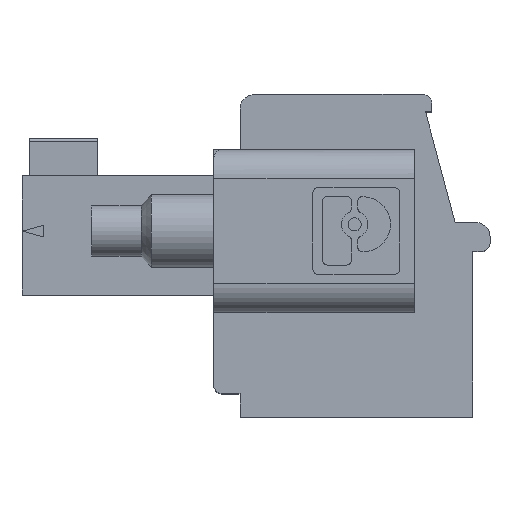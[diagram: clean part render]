
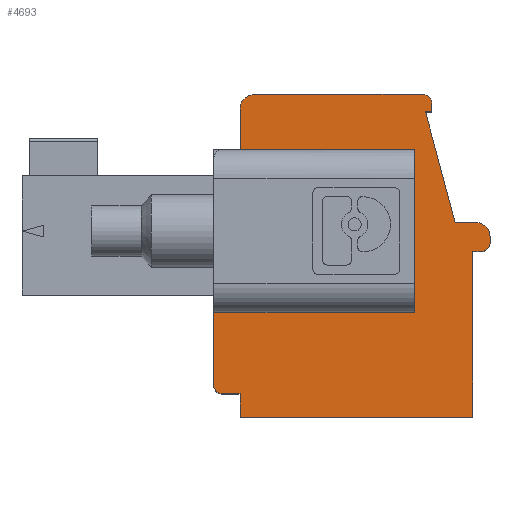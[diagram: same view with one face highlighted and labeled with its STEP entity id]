
A CAD part, top view. The second image highlights one B-rep face of the part: STEP entity #4693.
In plain terms, the highlighted planar face has unit normal (0, 0, 1).
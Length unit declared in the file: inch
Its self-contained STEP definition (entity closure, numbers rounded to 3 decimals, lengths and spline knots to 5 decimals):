
#534=DIRECTION('',(0.,1.,0.));
#535=VECTOR('',#534,0.22441);
#536=CARTESIAN_POINT('',(1.99256,1.15678,3.04744));
#537=LINE('',#536,#535);
#538=DIRECTION('',(1.,0.,0.));
#539=VECTOR('',#538,0.31496);
#540=CARTESIAN_POINT('',(1.6776,1.15678,3.04744));
#541=LINE('',#540,#539);
#542=DIRECTION('',(0.,-1.,0.));
#543=VECTOR('',#542,0.0315);
#544=CARTESIAN_POINT('',(1.6776,1.18828,3.04744));
#545=LINE('',#544,#543);
#546=DIRECTION('',(1.,0.,0.));
#547=VECTOR('',#546,0.02362);
#548=CARTESIAN_POINT('',(1.65398,1.18828,3.04744));
#549=LINE('',#548,#547);
#550=CARTESIAN_POINT('',(1.65398,1.20009,3.04744));
#551=DIRECTION('',(0.,0.,1.));
#552=DIRECTION('',(-1.,0.,0.));
#553=AXIS2_PLACEMENT_3D('',#550,#551,#552);
#555=DIRECTION('',(-1.,0.,0.));
#556=VECTOR('',#555,0.27165);
#557=CARTESIAN_POINT('',(1.91382,1.29851,3.04744));
#558=LINE('',#557,#556);
#559=DIRECTION('',(0.,-1.,0.));
#560=VECTOR('',#559,0.22047);
#561=CARTESIAN_POINT('',(1.91382,1.51898,3.04744));
#562=LINE('',#561,#560);
#563=DIRECTION('',(1.,0.,0.));
#564=VECTOR('',#563,0.23622);
#565=CARTESIAN_POINT('',(1.6776,1.51898,3.04744));
#566=LINE('',#565,#564);
#567=DIRECTION('',(0.,-1.,0.));
#568=VECTOR('',#567,0.05512);
#569=CARTESIAN_POINT('',(1.6776,1.5741,3.04744));
#570=LINE('',#569,#568);
#571=CARTESIAN_POINT('',(1.69729,1.5741,3.04744));
#572=DIRECTION('',(0.,0.,1.));
#573=DIRECTION('',(0.,1.,0.));
#574=AXIS2_PLACEMENT_3D('',#571,#572,#573);
#576=DIRECTION('',(-1.,0.,0.));
#577=VECTOR('',#576,0.22835);
#578=CARTESIAN_POINT('',(1.92563,1.59379,3.04744));
#579=LINE('',#578,#577);
#580=CARTESIAN_POINT('',(1.92563,1.58198,3.04744));
#581=DIRECTION('',(0.,0.,1.));
#582=DIRECTION('',(1.,0.,0.));
#583=AXIS2_PLACEMENT_3D('',#580,#581,#582);
#585=DIRECTION('',(0.,1.,0.));
#586=VECTOR('',#585,0.01181);
#587=CARTESIAN_POINT('',(1.93744,1.57017,3.04744));
#588=LINE('',#587,#586);
#589=DIRECTION('',(1.,0.,0.));
#590=VECTOR('',#589,0.00859);
#591=CARTESIAN_POINT('',(1.92885,1.57017,3.04744));
#592=LINE('',#591,#590);
#593=DIRECTION('',(-0.259,0.966,0.));
#594=VECTOR('',#593,0.15488);
#595=CARTESIAN_POINT('',(1.96894,1.42056,3.04744));
#596=LINE('',#595,#594);
#597=DIRECTION('',(-1.,0.,0.));
#598=VECTOR('',#597,0.02756);
#599=CARTESIAN_POINT('',(1.9965,1.42056,3.04744));
#600=LINE('',#599,#598);
#601=CARTESIAN_POINT('',(1.9965,1.40087,3.04744));
#602=DIRECTION('',(0.,0.,1.));
#603=DIRECTION('',(1.,0.,0.));
#604=AXIS2_PLACEMENT_3D('',#601,#602,#603);
#606=DIRECTION('',(0.,1.,0.));
#607=VECTOR('',#606,0.00787);
#608=CARTESIAN_POINT('',(2.01618,1.393,3.04744));
#609=LINE('',#608,#607);
#610=CARTESIAN_POINT('',(2.00437,1.393,3.04744));
#611=DIRECTION('',(0.,0.,1.));
#612=DIRECTION('',(0.,-1.,0.));
#613=AXIS2_PLACEMENT_3D('',#610,#611,#612);
#635=DIRECTION('',(-1.,0.,0.));
#636=VECTOR('',#635,0.01181);
#637=CARTESIAN_POINT('',(2.00437,1.38119,3.04744));
#638=LINE('',#637,#636);
#1487=DIRECTION('',(0.,1.,0.));
#1488=VECTOR('',#1487,0.09843);
#1489=CARTESIAN_POINT('',(1.64217,1.20009,3.04744));
#1490=LINE('',#1489,#1488);
#3286=CARTESIAN_POINT('',(2.00437,1.38119,3.04744));
#3287=VERTEX_POINT('',#3286);
#3288=CARTESIAN_POINT('',(2.01618,1.393,3.04744));
#3289=VERTEX_POINT('',#3288);
#3385=CARTESIAN_POINT('',(1.69729,1.59379,3.04744));
#3387=VERTEX_POINT('',#3385);
#3389=CARTESIAN_POINT('',(1.6776,1.5741,3.04744));
#3390=VERTEX_POINT('',#3389);
#3407=CARTESIAN_POINT('',(1.99256,1.15678,3.04744));
#3408=CARTESIAN_POINT('',(1.99256,1.38119,3.04744));
#3409=VERTEX_POINT('',#3407);
#3410=VERTEX_POINT('',#3408);
#3411=CARTESIAN_POINT('',(1.6776,1.15678,3.04744));
#3412=VERTEX_POINT('',#3411);
#3413=CARTESIAN_POINT('',(1.6776,1.18828,3.04744));
#3414=VERTEX_POINT('',#3413);
#3415=CARTESIAN_POINT('',(1.65398,1.18828,3.04744));
#3416=VERTEX_POINT('',#3415);
#3417=CARTESIAN_POINT('',(1.64217,1.20009,3.04744));
#3418=VERTEX_POINT('',#3417);
#3419=CARTESIAN_POINT('',(1.64217,1.29851,3.04744));
#3420=VERTEX_POINT('',#3419);
#3421=CARTESIAN_POINT('',(1.91382,1.29851,3.04744));
#3422=VERTEX_POINT('',#3421);
#3423=CARTESIAN_POINT('',(1.91382,1.51898,3.04744));
#3424=VERTEX_POINT('',#3423);
#3425=CARTESIAN_POINT('',(1.6776,1.51898,3.04744));
#3426=VERTEX_POINT('',#3425);
#3427=CARTESIAN_POINT('',(1.92563,1.59379,3.04744));
#3428=VERTEX_POINT('',#3427);
#3429=CARTESIAN_POINT('',(1.93744,1.58198,3.04744));
#3430=VERTEX_POINT('',#3429);
#3431=CARTESIAN_POINT('',(1.93744,1.57017,3.04744));
#3432=VERTEX_POINT('',#3431);
#3433=CARTESIAN_POINT('',(1.92885,1.57017,3.04744));
#3434=VERTEX_POINT('',#3433);
#3435=CARTESIAN_POINT('',(1.96894,1.42056,3.04744));
#3436=VERTEX_POINT('',#3435);
#3437=CARTESIAN_POINT('',(1.9965,1.42056,3.04744));
#3438=VERTEX_POINT('',#3437);
#3439=CARTESIAN_POINT('',(2.01618,1.40087,3.04744));
#3440=VERTEX_POINT('',#3439);
#4646=CARTESIAN_POINT('',(1.88804,-0.51098,
3.04744));
#4647=DIRECTION('',(0.,0.,1.));
#4648=DIRECTION('',(1.,0.,0.));
#4649=AXIS2_PLACEMENT_3D('',#4646,#4647,#4648);
#4650=PLANE('',#4649);
#4652=ORIENTED_EDGE('',*,*,#4651,.T.);
#4654=ORIENTED_EDGE('',*,*,#4653,.F.);
#4656=ORIENTED_EDGE('',*,*,#4655,.F.);
#4658=ORIENTED_EDGE('',*,*,#4657,.F.);
#4660=ORIENTED_EDGE('',*,*,#4659,.F.);
#4662=ORIENTED_EDGE('',*,*,#4661,.F.);
#4664=ORIENTED_EDGE('',*,*,#4663,.T.);
#4666=ORIENTED_EDGE('',*,*,#4665,.F.);
#4668=ORIENTED_EDGE('',*,*,#4667,.F.);
#4670=ORIENTED_EDGE('',*,*,#4669,.F.);
#4672=ORIENTED_EDGE('',*,*,#4671,.F.);
#4673=ORIENTED_EDGE('',*,*,#4576,.F.);
#4675=ORIENTED_EDGE('',*,*,#4674,.F.);
#4677=ORIENTED_EDGE('',*,*,#4676,.F.);
#4679=ORIENTED_EDGE('',*,*,#4678,.F.);
#4681=ORIENTED_EDGE('',*,*,#4680,.F.);
#4683=ORIENTED_EDGE('',*,*,#4682,.F.);
#4685=ORIENTED_EDGE('',*,*,#4684,.F.);
#4687=ORIENTED_EDGE('',*,*,#4686,.F.);
#4689=ORIENTED_EDGE('',*,*,#4688,.F.);
#4690=ORIENTED_EDGE('',*,*,#4337,.F.);
#4691=EDGE_LOOP('',(#4652,#4654,#4656,#4658,#4660,#4662,#4664,#4666,#4668,#4670,
#4672,#4673,#4675,#4677,#4679,#4681,#4683,#4685,#4687,#4689,#4690));
#4692=FACE_OUTER_BOUND('',#4691,.F.);
#4693=ADVANCED_FACE('',(#4692),#4650,.T.);
#554=CIRCLE('',#553,0.01181);
#575=CIRCLE('',#574,0.01969);
#584=CIRCLE('',#583,0.01181);
#605=CIRCLE('',#604,0.01969);
#614=CIRCLE('',#613,0.01181);
#4337=EDGE_CURVE('',#3287,#3289,#614,.T.);
#4576=EDGE_CURVE('',#3387,#3390,#575,.T.);
#4651=EDGE_CURVE('',#3287,#3410,#638,.T.);
#4653=EDGE_CURVE('',#3409,#3410,#537,.T.);
#4655=EDGE_CURVE('',#3412,#3409,#541,.T.);
#4657=EDGE_CURVE('',#3414,#3412,#545,.T.);
#4659=EDGE_CURVE('',#3416,#3414,#549,.T.);
#4661=EDGE_CURVE('',#3418,#3416,#554,.T.);
#4663=EDGE_CURVE('',#3418,#3420,#1490,.T.);
#4665=EDGE_CURVE('',#3422,#3420,#558,.T.);
#4667=EDGE_CURVE('',#3424,#3422,#562,.T.);
#4669=EDGE_CURVE('',#3426,#3424,#566,.T.);
#4671=EDGE_CURVE('',#3390,#3426,#570,.T.);
#4674=EDGE_CURVE('',#3428,#3387,#579,.T.);
#4676=EDGE_CURVE('',#3430,#3428,#584,.T.);
#4678=EDGE_CURVE('',#3432,#3430,#588,.T.);
#4680=EDGE_CURVE('',#3434,#3432,#592,.T.);
#4682=EDGE_CURVE('',#3436,#3434,#596,.T.);
#4684=EDGE_CURVE('',#3438,#3436,#600,.T.);
#4686=EDGE_CURVE('',#3440,#3438,#605,.T.);
#4688=EDGE_CURVE('',#3289,#3440,#609,.T.);
